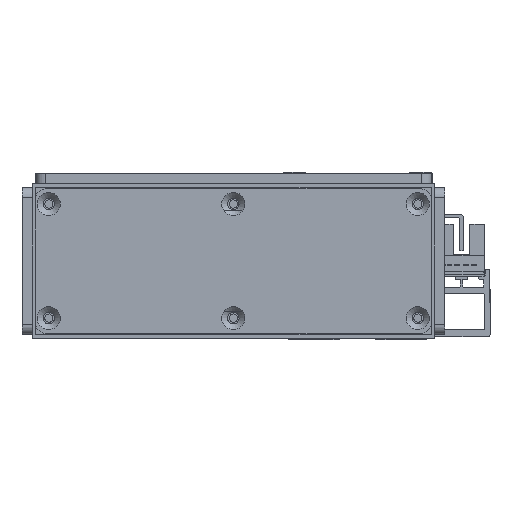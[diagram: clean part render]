
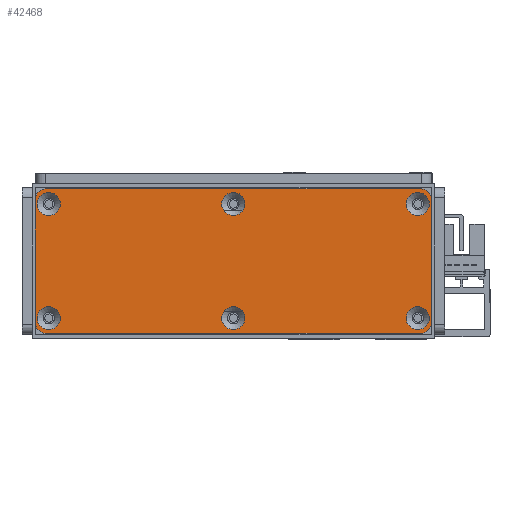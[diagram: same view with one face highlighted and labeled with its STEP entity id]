
A CAD part, front view. The second image highlights one B-rep face of the part: STEP entity #42468.
In plain terms, the highlighted planar face has unit normal (0, -1, 0) as drawn and (0, 0, 1) by its records, which use the part's own axes.
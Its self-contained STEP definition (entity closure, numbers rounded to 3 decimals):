
#803=FACE_BOUND('',#7789,.T.);
#804=FACE_BOUND('',#7790,.T.);
#805=FACE_BOUND('',#7791,.T.);
#806=FACE_BOUND('',#7792,.T.);
#807=FACE_BOUND('',#7793,.T.);
#808=FACE_BOUND('',#7794,.T.);
#2583=PLANE('',#46050);
#5204=FACE_OUTER_BOUND('',#7788,.T.);
#7788=EDGE_LOOP('',(#39593,#39594,#39595,#39596,#39597,#39598,#39599,#39600));
#7789=EDGE_LOOP('',(#39601));
#7790=EDGE_LOOP('',(#39602));
#7791=EDGE_LOOP('',(#39603));
#7792=EDGE_LOOP('',(#39604));
#7793=EDGE_LOOP('',(#39605));
#7794=EDGE_LOOP('',(#39606));
#12401=LINE('',#70961,#17091);
#12405=LINE('',#70973,#17095);
#12409=LINE('',#70985,#17099);
#12413=LINE('',#70995,#17103);
#17091=VECTOR('',#56870,10.);
#17095=VECTOR('',#56882,10.);
#17099=VECTOR('',#56894,10.);
#17103=VECTOR('',#56906,10.);
#18315=CIRCLE('',#46004,3.45);
#18318=CIRCLE('',#46009,3.45);
#18321=CIRCLE('',#46014,3.45);
#18324=CIRCLE('',#46019,3.45);
#18327=CIRCLE('',#46024,3.45);
#18330=CIRCLE('',#46029,3.45);
#18334=CIRCLE('',#46035,3.);
#18336=CIRCLE('',#46039,3.);
#18338=CIRCLE('',#46043,3.);
#18340=CIRCLE('',#46047,3.);
#22139=VERTEX_POINT('',#70889);
#22142=VERTEX_POINT('',#70899);
#22145=VERTEX_POINT('',#70909);
#22148=VERTEX_POINT('',#70919);
#22151=VERTEX_POINT('',#70929);
#22154=VERTEX_POINT('',#70939);
#22159=VERTEX_POINT('',#70952);
#22160=VERTEX_POINT('',#70954);
#22162=VERTEX_POINT('',#70960);
#22164=VERTEX_POINT('',#70966);
#22166=VERTEX_POINT('',#70972);
#22168=VERTEX_POINT('',#70978);
#22170=VERTEX_POINT('',#70984);
#22172=VERTEX_POINT('',#70990);
#27966=EDGE_CURVE('',#22139,#22139,#18315,.T.);
#27971=EDGE_CURVE('',#22142,#22142,#18318,.T.);
#27976=EDGE_CURVE('',#22145,#22145,#18321,.T.);
#27981=EDGE_CURVE('',#22148,#22148,#18324,.T.);
#27986=EDGE_CURVE('',#22151,#22151,#18327,.T.);
#27991=EDGE_CURVE('',#22154,#22154,#18330,.T.);
#27998=EDGE_CURVE('',#22160,#22159,#18334,.T.);
#28001=EDGE_CURVE('',#22162,#22160,#12401,.T.);
#28004=EDGE_CURVE('',#22164,#22162,#18336,.T.);
#28007=EDGE_CURVE('',#22166,#22164,#12405,.T.);
#28010=EDGE_CURVE('',#22168,#22166,#18338,.T.);
#28013=EDGE_CURVE('',#22170,#22168,#12409,.T.);
#28016=EDGE_CURVE('',#22172,#22170,#18340,.T.);
#28019=EDGE_CURVE('',#22159,#22172,#12413,.T.);
#39593=ORIENTED_EDGE('',*,*,#28019,.T.);
#39594=ORIENTED_EDGE('',*,*,#28016,.T.);
#39595=ORIENTED_EDGE('',*,*,#28013,.T.);
#39596=ORIENTED_EDGE('',*,*,#28010,.T.);
#39597=ORIENTED_EDGE('',*,*,#28007,.T.);
#39598=ORIENTED_EDGE('',*,*,#28004,.T.);
#39599=ORIENTED_EDGE('',*,*,#28001,.T.);
#39600=ORIENTED_EDGE('',*,*,#27998,.T.);
#39601=ORIENTED_EDGE('',*,*,#27966,.T.);
#39602=ORIENTED_EDGE('',*,*,#27971,.T.);
#39603=ORIENTED_EDGE('',*,*,#27976,.T.);
#39604=ORIENTED_EDGE('',*,*,#27981,.T.);
#39605=ORIENTED_EDGE('',*,*,#27986,.T.);
#39606=ORIENTED_EDGE('',*,*,#27991,.T.);
#42468=ADVANCED_FACE('',(#5204,#803,#804,#805,#806,#807,#808),#2583,.T.);
#46004=AXIS2_PLACEMENT_3D('',#70890,#56789,#56790);
#46009=AXIS2_PLACEMENT_3D('',#70900,#56801,#56802);
#46014=AXIS2_PLACEMENT_3D('',#70910,#56813,#56814);
#46019=AXIS2_PLACEMENT_3D('',#70920,#56825,#56826);
#46024=AXIS2_PLACEMENT_3D('',#70930,#56837,#56838);
#46029=AXIS2_PLACEMENT_3D('',#70940,#56849,#56850);
#46035=AXIS2_PLACEMENT_3D('',#70955,#56864,#56865);
#46039=AXIS2_PLACEMENT_3D('',#70967,#56876,#56877);
#46043=AXIS2_PLACEMENT_3D('',#70979,#56888,#56889);
#46047=AXIS2_PLACEMENT_3D('',#70991,#56900,#56901);
#46050=AXIS2_PLACEMENT_3D('',#70997,#56909,#56910);
#56789=DIRECTION('center_axis',(0.,0.,-1.));
#56790=DIRECTION('ref_axis',(1.,0.,0.));
#56801=DIRECTION('center_axis',(0.,0.,-1.));
#56802=DIRECTION('ref_axis',(1.,0.,0.));
#56813=DIRECTION('center_axis',(0.,0.,-1.));
#56814=DIRECTION('ref_axis',(1.,0.,0.));
#56825=DIRECTION('center_axis',(0.,0.,-1.));
#56826=DIRECTION('ref_axis',(1.,0.,0.));
#56837=DIRECTION('center_axis',(0.,0.,-1.));
#56838=DIRECTION('ref_axis',(1.,0.,0.));
#56849=DIRECTION('center_axis',(0.,0.,-1.));
#56850=DIRECTION('ref_axis',(1.,0.,0.));
#56864=DIRECTION('center_axis',(0.,0.,1.));
#56865=DIRECTION('ref_axis',(-1.,0.,0.));
#56870=DIRECTION('',(0.,1.,0.));
#56876=DIRECTION('center_axis',(0.,0.,1.));
#56877=DIRECTION('ref_axis',(0.,1.,0.));
#56882=DIRECTION('',(1.,0.,0.));
#56888=DIRECTION('center_axis',(0.,0.,1.));
#56889=DIRECTION('ref_axis',(1.,0.,0.));
#56894=DIRECTION('',(0.,-1.,0.));
#56900=DIRECTION('center_axis',(0.,0.,1.));
#56901=DIRECTION('ref_axis',(0.,-1.,0.));
#56906=DIRECTION('',(-1.,0.,0.));
#56909=DIRECTION('center_axis',(0.,0.,1.));
#56910=DIRECTION('ref_axis',(1.,0.,0.));
#70889=CARTESIAN_POINT('',(110.55,4.5,3.));
#70890=CARTESIAN_POINT('Origin',(114.,4.5,3.));
#70899=CARTESIAN_POINT('',(55.55,38.5,3.));
#70900=CARTESIAN_POINT('Origin',(59.,38.5,3.));
#70909=CARTESIAN_POINT('',(55.55,4.5,3.));
#70910=CARTESIAN_POINT('Origin',(59.,4.5,3.));
#70919=CARTESIAN_POINT('',(0.55,38.5,3.));
#70920=CARTESIAN_POINT('Origin',(4.,38.5,3.));
#70929=CARTESIAN_POINT('',(110.55,38.5,3.));
#70930=CARTESIAN_POINT('Origin',(114.,38.5,3.));
#70939=CARTESIAN_POINT('',(0.55,4.5,3.));
#70940=CARTESIAN_POINT('Origin',(4.,4.5,3.));
#70952=CARTESIAN_POINT('',(115.,43.,3.));
#70954=CARTESIAN_POINT('',(118.,40.,3.));
#70955=CARTESIAN_POINT('Origin',(115.,40.,3.));
#70960=CARTESIAN_POINT('',(118.,3.,3.));
#70961=CARTESIAN_POINT('',(118.,40.,3.));
#70966=CARTESIAN_POINT('',(115.,0.,3.));
#70967=CARTESIAN_POINT('Origin',(115.,3.,3.));
#70972=CARTESIAN_POINT('',(3.,0.,3.));
#70973=CARTESIAN_POINT('',(115.,0.,3.));
#70978=CARTESIAN_POINT('',(0.,3.,3.));
#70979=CARTESIAN_POINT('Origin',(3.,3.,3.));
#70984=CARTESIAN_POINT('',(0.,40.,3.));
#70985=CARTESIAN_POINT('',(0.,3.,3.));
#70990=CARTESIAN_POINT('',(3.,43.,3.));
#70991=CARTESIAN_POINT('Origin',(3.,40.,3.));
#70995=CARTESIAN_POINT('',(3.,43.,3.));
#70997=CARTESIAN_POINT('Origin',(59.,21.5,3.));
